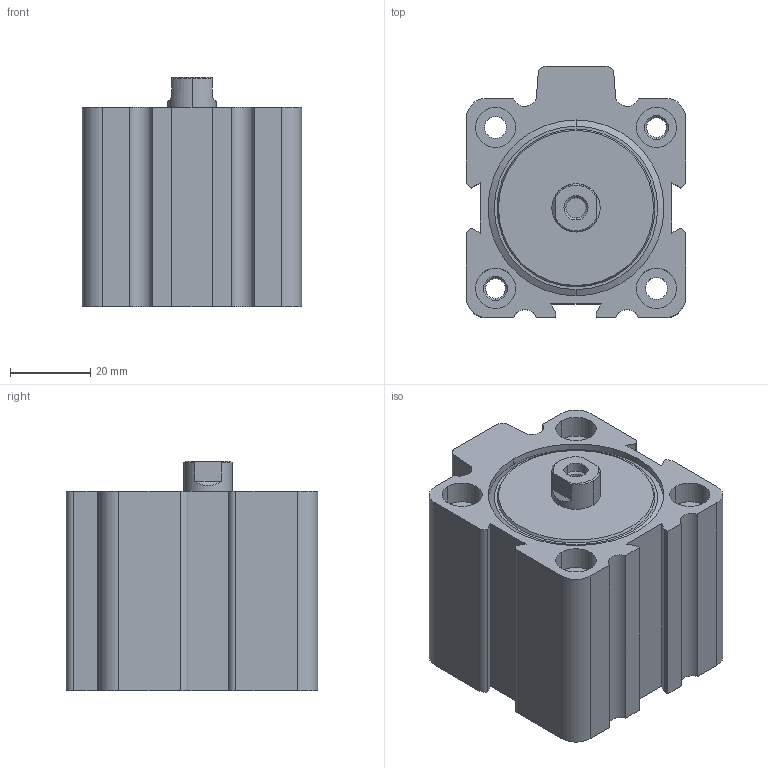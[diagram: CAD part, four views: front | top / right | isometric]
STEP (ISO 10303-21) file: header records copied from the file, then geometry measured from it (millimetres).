
FILE_DESCRIPTION((''),'2;1');
FILE_NAME('0822406451_ASM','2015-07-01T',('vol1hc'),(''),'PRO/ENGINEER BY PARAMETRIC TECHNOLOGY CORPORATION, 2012421','PRO/ENGINEER BY PARAMETRIC TECHNOLOGY CORPORATION, 2012421','');
FILE_SCHEMA(('CONFIG_CONTROL_DESIGN','SHAPE_APPEARANCE_LAYERS_GROUPS'));
Length unit declared in the file: millimetre
Products named in the file (3): 0822406451-A; 0822406451-B; 0822406451_ASM
Assembly tree (2 placements, depth 2):
  0822406451_ASM
    0822406451-A
    0822406451-B
Bounding box: 54.5 x 62.5 x 57 mm (x, y, z)
Volume: 126106.6 mm3; surface area: 38713.9 mm2
Topology: 2 solids, 2 shells, 154 faces, 364 edges, 234 vertices
Faces by surface type: cylinder 66, plane 56, cone 28, torus 4
Entity records: 4640 total; most frequent: DIRECTION 842, CARTESIAN_POINT 827, ORIENTED_EDGE 728, EDGE_CURVE 364, AXIS2_PLACEMENT_3D 333, VERTEX_POINT 234, EDGE_LOOP 182, VECTOR 176
